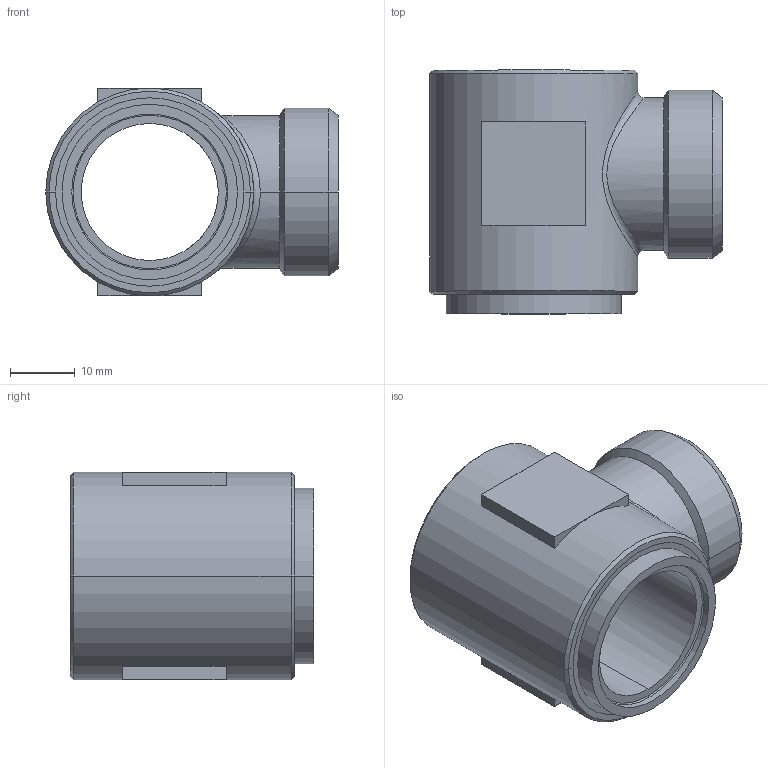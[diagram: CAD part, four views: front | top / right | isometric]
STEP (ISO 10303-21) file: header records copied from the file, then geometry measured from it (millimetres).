
FILE_DESCRIPTION((''),'2;1');
FILE_NAME('101309.stp','2007-10-30T15:40:55',(''),(''),'AutoCAD STEP 2000i','AutoCAD 2000i',', , ');
FILE_SCHEMA(('CONFIG_CONTROL_DESIGN'));
Length unit declared in the file: millimetre
Products named in the file (2): 101309.0; 1094#0
Assembly tree (1 placements, depth 2):
  101309.0
    1094#0
Bounding box: 45 x 37.5 x 32 mm (x, y, z)
Volume: 19273.9 mm3; surface area: 9041.4 mm2
Topology: 1 solids, 1 shells, 55 faces, 127 edges, 79 vertices
Faces by surface type: plane 20, cylinder 16, cone 14, bspline 5
Entity records: 2096 total; most frequent: CARTESIAN_POINT 711, DIRECTION 285, ORIENTED_EDGE 254, EDGE_CURVE 127, AXIS2_PLACEMENT_3D 115, VERTEX_POINT 79, EDGE_LOOP 64, CIRCLE 63
